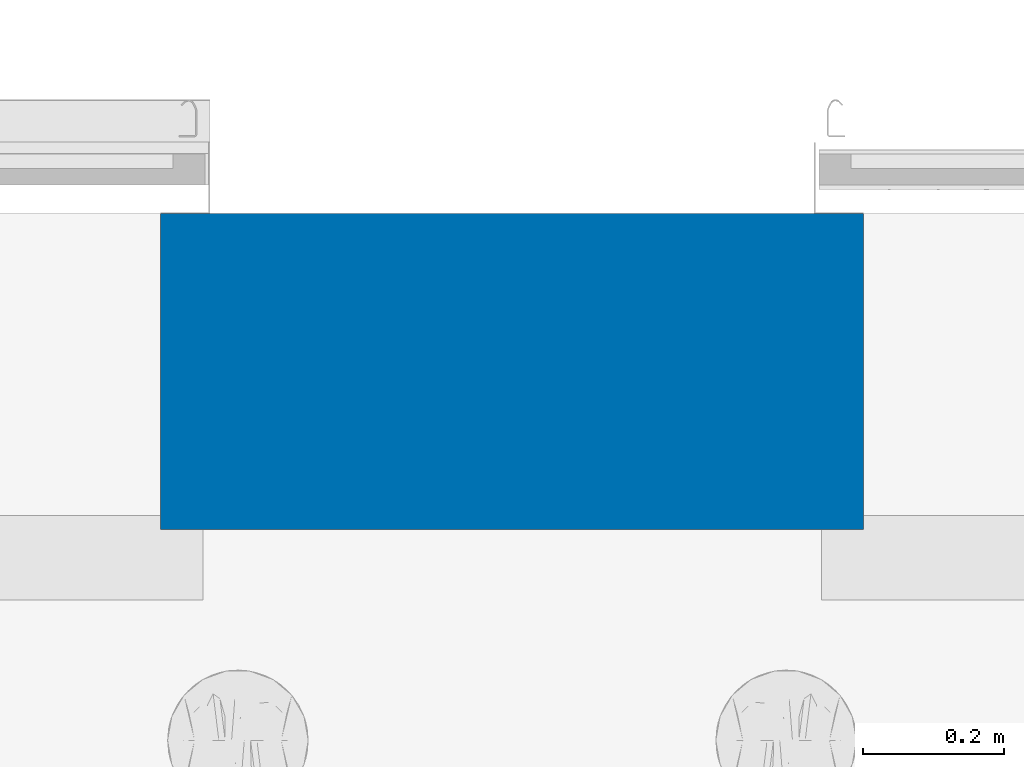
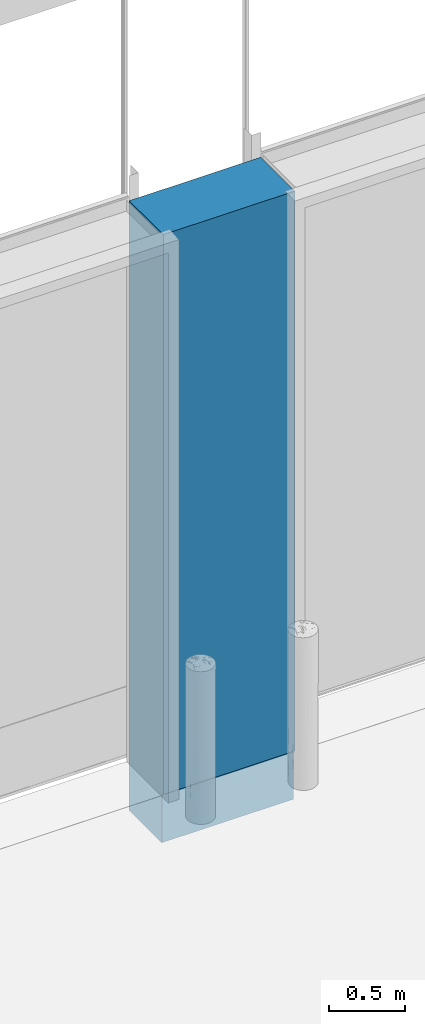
# One storey, part 53 of 77: 1 wall, 1 opening.
"""IFC2X3 building model written with IfcOpenShell, lengths in millimetres."""

import ifcopenshell
import ifcopenshell.guid

model = None  # the IFC model being written
_history = None  # IfcOwnerHistory: only IFC2X3 demands one
_inside = {}  # id of a spatial element -> (the spatial element, [elements in it])
_under = {}  # id of a project, library or spatial element -> (it, [spatial elements below it])
_declared = {}  # id of a project -> (the project, [libraries it declares])
_typed = {}  # id of a type object -> (the type object, [elements of that type])
_made_of = {}  # id of a material, layer set ... -> (it, [elements and type objects made of it])


def new_model(schema):
    """Start an empty IFC model of exactly this schema.

    Asked for "IFC4X3", IfcOpenShell would pick the latest addendum, in which some entities
    have other attributes; the version numbers below select the first issue.
    IFC2X3 requires an IfcOwnerHistory on every rooted entity: one is made here for all.
    """
    global model, _history
    if schema == "IFC4X3":
        model = ifcopenshell.file(schema_version=(4, 3, 0, 0))
    else:
        model = ifcopenshell.file(schema=schema)
    _inside.clear()
    _under.clear()
    _declared.clear()
    _typed.clear()
    _made_of.clear()
    _history = None
    if model.schema == "IFC2X3":
        org = make("IfcOrganization", Name="unknown")
        user = make(
            "IfcPersonAndOrganization",
            ThePerson=make("IfcPerson", FamilyName="unknown"),
            TheOrganization=org,
        )
        app = make(
            "IfcApplication",
            ApplicationDeveloper=org,
            Version="unknown",
            ApplicationFullName="unknown",
            ApplicationIdentifier="unknown",
        )
        _history = make(
            "IfcOwnerHistory",
            OwningUser=user,
            OwningApplication=app,
            ChangeAction="ADDED",
            CreationDate=0,
        )
    return model


def make(cls, **values):
    """One entity of the class cls with the attributes given. An attribute that is None is left unset."""
    return model.create_entity(
        cls, **{name: value for name, value in values.items() if value is not None}
    )


def entity(cls, *values):
    """Any entity or typed value of the class cls, its attributes in the order of the schema. None: left unset."""
    e = model.create_entity(cls)
    for i, value in enumerate(values):
        if value is not None:
            e[i] = value
    return e


def rooted(cls, **values):
    """An entity with a GlobalId (a new one), such as an element, a storey or a relation."""
    return make(cls, GlobalId=ifcopenshell.guid.new(), OwnerHistory=_history, **values)


def si_unit(unit_type, name, prefix=None):
    """IfcSIUnit, for example si_unit("LENGTHUNIT", "METRE", prefix="MILLI")."""
    return make("IfcSIUnit", UnitType=unit_type, Prefix=prefix, Name=name)


def converted_unit(unit_type, name, factor, base, dimensions=None, offset=None):
    """IfcConversionBasedUnit, such as the inch: factor (a typed value) times the base unit."""
    return make(
        "IfcConversionBasedUnit"
        if offset is None
        else "IfcConversionBasedUnitWithOffset",
        ConversionOffset=offset,
        Dimensions=None
        if dimensions is None
        else entity("IfcDimensionalExponents", *dimensions),
        UnitType=unit_type,
        Name=name,
        ConversionFactor=make(
            "IfcMeasureWithUnit", ValueComponent=factor, UnitComponent=base
        ),
    )


def derived_unit(unit_type, elements):
    """IfcDerivedUnit: a product of units, each with its exponent."""
    return make(
        "IfcDerivedUnit",
        Elements=[
            make("IfcDerivedUnitElement", Unit=unit, Exponent=power)
            for unit, power in elements
        ],
        UnitType=unit_type,
    )


def assignment(units):
    """IfcUnitAssignment: the units of a project."""
    return None if units is None else make("IfcUnitAssignment", Units=units)


def point(xyz):
    """IfcCartesianPoint."""
    return None if xyz is None else make("IfcCartesianPoint", Coordinates=xyz)


def direction(xyz):
    """IfcDirection."""
    return None if xyz is None else make("IfcDirection", DirectionRatios=xyz)


def frame(location, z_axis=None, x_axis=None):
    """IfcAxis2Placement3D, a coordinate frame: its origin and axes. An axis left out is left unset."""
    return make(
        "IfcAxis2Placement3D",
        Location=point(location),
        Axis=direction(z_axis),
        RefDirection=direction(x_axis),
    )


def frame_2d(location, x_axis=None):
    """IfcAxis2Placement2D, a coordinate frame in the plane: its origin and x axis."""
    return make(
        "IfcAxis2Placement2D", Location=point(location), RefDirection=direction(x_axis)
    )


def origin():
    """The frame at (0, 0, 0) with its axes left unset."""
    return frame((0.0, 0.0, 0.0))


def place(relative_to, where):
    """IfcLocalPlacement: puts the frame where relative to a parent placement (None: the world)."""
    return make(
        "IfcLocalPlacement", PlacementRelTo=relative_to, RelativePlacement=where
    )


def context(
    kind, dimensions, precision=None, world=None, true_north=None, identifier=None
):
    """IfcGeometricRepresentationContext, for example the 3D "Model" context."""
    return make(
        "IfcGeometricRepresentationContext",
        ContextIdentifier=identifier,
        ContextType=kind,
        CoordinateSpaceDimension=dimensions,
        Precision=precision,
        WorldCoordinateSystem=world,
        TrueNorth=true_north,
    )


def subcontext(parent, identifier, kind, view, scale=None):
    """IfcGeometricRepresentationSubContext, for example "Body" below "Model"."""
    return make(
        "IfcGeometricRepresentationSubContext",
        ContextIdentifier=identifier,
        ContextType=kind,
        ParentContext=parent,
        TargetScale=scale,
        TargetView=view,
    )


def project(units=None, contexts=None):
    """IfcProject with its units and contexts."""
    return rooted(
        "IfcProject",
        Name="project",
        RepresentationContexts=contexts,
        UnitsInContext=assignment(units),
    )


def spatial(cls, under=None, at=None, **own):
    """A site, building, storey or space (cls), placed at a placement, below another one or the project."""
    s = rooted(cls, ObjectPlacement=at, **own)
    if under is not None:
        _under.setdefault(under.id(), (under, []))[1].append(s)
    return s


def profile(cls, at=None, kind="AREA", **sizes):
    """A parametric profile (cls). Its sizes go by their IFC names, for example OverallWidth=200.0."""
    return make(cls, ProfileType=kind, Position=at, **sizes)


def rectangle(**sizes):
    """IfcRectangleProfileDef."""
    return profile("IfcRectangleProfileDef", **sizes)


def extrude(swept, where, along, depth):
    """IfcExtrudedAreaSolid: the profile swept, set in the frame where, extruded along a direction by depth."""
    return make(
        "IfcExtrudedAreaSolid",
        SweptArea=swept,
        Position=where,
        ExtrudedDirection=direction(along),
        Depth=depth,
    )


def faces_of(points, faces, orient=None, outer=None):
    """IfcFace entities. A face is a list of loops; a loop is a list of indices into points, from 0.

    orient and outer hold one flag for each loop. By default every Orientation is true, the
    first loop of a face is its IfcFaceOuterBound and the others are IfcFaceBound.
    """
    made = []
    for i, loops in enumerate(faces):
        bounds = []
        for j, loop in enumerate(loops):
            is_outer = j == 0 if outer is None else outer[i][j]
            bounds.append(
                make(
                    "IfcFaceOuterBound" if is_outer else "IfcFaceBound",
                    Bound=make("IfcPolyLoop", Polygon=[points[k] for k in loop]),
                    Orientation=True if orient is None else orient[i][j],
                )
            )
        made.append(make("IfcFace", Bounds=bounds))
    return made


def faceted_brep(points, faces, orient=None, outer=None, voids=None):
    """IfcFacetedBrep: a solid bounded by flat faces; with voids (closed shells), ...WithVoids."""
    shared = [point(p) for p in points]
    hull = make("IfcClosedShell", CfsFaces=faces_of(shared, faces, orient, outer))
    if voids is None:
        return make("IfcFacetedBrep", Outer=hull)
    return make(
        "IfcFacetedBrepWithVoids",
        Outer=hull,
        Voids=[
            make(cls, CfsFaces=faces_of(shared, fs, o, b)) for cls, fs, o, b in voids
        ],
    )


def shape(context_of_items, identifier, shape_type, items):
    """IfcShapeRepresentation: the items that make up one representation, for example the "Body"."""
    return make(
        "IfcShapeRepresentation",
        ContextOfItems=context_of_items,
        RepresentationIdentifier=identifier,
        RepresentationType=shape_type,
        Items=items,
    )


def material(Name=None, Category=None):
    """IfcMaterial."""
    return make("IfcMaterial", Name=Name, Category=Category)


def layer(
    of_material, thickness, ventilated=None, Name=None, Category=None, Priority=None
):
    """IfcMaterialLayer: one layer of a wall or slab, of a material (None: an air gap)."""
    return make(
        "IfcMaterialLayer",
        Material=of_material,
        LayerThickness=thickness,
        IsVentilated=ventilated,
        Name=Name,
        Category=Category,
        Priority=Priority,
    )


def layer_set(layers, Name=None):
    """IfcMaterialLayerSet."""
    return make("IfcMaterialLayerSet", MaterialLayers=layers, LayerSetName=Name)


def made_of(thing, what):
    """Note that an element or type object is made of a material, layer set ...; save() writes the relation."""
    if what is not None:
        _made_of.setdefault(what.id(), (what, []))[1].append(thing)
    return thing


def type_object(cls, material=None, **own):
    """A type object (cls), such as IfcWallType, which elements share."""
    return made_of(rooted(cls, **own), material)


def element(
    cls,
    number,
    at=None,
    inside=None,
    cuts=None,
    type_object=None,
    material=None,
    context=None,
    identifier="Body",
    shape_type=None,
    held_by="IfcProductDefinitionShape",
    body=None,
    shapes=None,
    **own,
):
    """One element of the class cls, such as IfcWall. Its Tag is "e" and its number.

    at: its placement. inside: the storey or other place that contains it. cuts: it is an
    opening in that element (IfcRelVoidsElement). A single representation is given by context,
    identifier, shape_type and body (its items); several are given by shapes. held_by: the class
    of the entity that holds the representations. save() writes the other relations.
    """
    e = rooted(cls, Tag="e%d" % number, ObjectPlacement=at, **own)
    if body is not None:
        shapes = [shape(context, identifier, shape_type, body)]
    if shapes is not None:
        e.Representation = make(held_by, Representations=shapes)
    if inside is not None:
        _inside.setdefault(inside.id(), (inside, []))[1].append(e)
    if cuts is not None:
        rooted(
            "IfcRelVoidsElement", RelatingBuildingElement=cuts, RelatedOpeningElement=e
        )
    if type_object is not None:
        _typed.setdefault(type_object.id(), (type_object, []))[1].append(e)
    return made_of(e, material)


def aggregate(whole, parts):
    """IfcRelAggregates: a whole, such as a stair, and the parts it consists of."""
    return rooted("IfcRelAggregates", RelatingObject=whole, RelatedObjects=parts)


def save(model, path):
    """Write the relations noted so far, then the file.

    IfcRelAggregates (storeys below a building ...), IfcRelContainedInSpatialStructure (elements
    in a storey), IfcRelDefinesByType, IfcRelAssociatesMaterial and IfcRelDeclares: one each for
    every whole, place, type object, material and project.
    """
    for whole, parts in _under.values():
        aggregate(whole, parts)
    for where, things in _inside.values():
        rooted(
            "IfcRelContainedInSpatialStructure",
            RelatedElements=things,
            RelatingStructure=where,
        )
    for kind, things in _typed.values():
        rooted("IfcRelDefinesByType", RelatedObjects=things, RelatingType=kind)
    for what, things in _made_of.values():
        rooted("IfcRelAssociatesMaterial", RelatedObjects=things, RelatingMaterial=what)
    for by, libraries in _declared.values():
        rooted("IfcRelDeclares", RelatingContext=by, RelatedDefinitions=libraries)
    model.write(path)


model = new_model("IFC2X3")

# Units and contexts
model_context = context("Model", 3, precision=0.01, world=origin(), true_north=direction((6.12303176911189e-17, 1.0)))
body_context = subcontext(model_context, "Body", "Model", "MODEL_VIEW")
ifc_project = project(units=[si_unit("LENGTHUNIT", "METRE", prefix="MILLI"), si_unit("AREAUNIT", "SQUARE_METRE"), si_unit("VOLUMEUNIT", "CUBIC_METRE"), converted_unit("PLANEANGLEUNIT", "DEGREE", entity("IfcRatioMeasure", 0.0174532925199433), si_unit("PLANEANGLEUNIT", "RADIAN"), dimensions=[0, 0, 0, 0, 0, 0, 0]), si_unit("MASSUNIT", "GRAM", prefix="KILO"), derived_unit("MASSDENSITYUNIT", [(si_unit("MASSUNIT", "GRAM", prefix="KILO"), 1), (si_unit("LENGTHUNIT", "METRE"), -3)]), si_unit("TIMEUNIT", "SECOND"), si_unit("FREQUENCYUNIT", "HERTZ"), si_unit("THERMODYNAMICTEMPERATUREUNIT", "DEGREE_CELSIUS"), derived_unit("THERMALTRANSMITTANCEUNIT", [(si_unit("MASSUNIT", "GRAM", prefix="KILO"), 1), (si_unit("THERMODYNAMICTEMPERATUREUNIT", "KELVIN"), -1), (si_unit("TIMEUNIT", "SECOND"), -3)]), derived_unit("VOLUMETRICFLOWRATEUNIT", [(si_unit("LENGTHUNIT", "METRE"), 3), (si_unit("TIMEUNIT", "SECOND"), -1)]), si_unit("ELECTRICCURRENTUNIT", "AMPERE"), si_unit("ELECTRICVOLTAGEUNIT", "VOLT"), si_unit("POWERUNIT", "WATT"), si_unit("FORCEUNIT", "NEWTON", prefix="KILO"), si_unit("ILLUMINANCEUNIT", "LUX"), si_unit("LUMINOUSFLUXUNIT", "LUMEN"), si_unit("LUMINOUSINTENSITYUNIT", "CANDELA"), derived_unit("USERDEFINED", [(si_unit("MASSUNIT", "GRAM", prefix="KILO"), -1), (si_unit("LENGTHUNIT", "METRE"), -2), (si_unit("TIMEUNIT", "SECOND"), 3), (si_unit("LUMINOUSFLUXUNIT", "LUMEN"), 1)]), derived_unit("LINEARVELOCITYUNIT", [(si_unit("LENGTHUNIT", "METRE"), 1), (si_unit("TIMEUNIT", "SECOND"), -1)]), si_unit("PRESSUREUNIT", "PASCAL"), derived_unit("USERDEFINED", [(si_unit("LENGTHUNIT", "METRE"), -2), (si_unit("MASSUNIT", "GRAM", prefix="KILO"), 1), (si_unit("TIMEUNIT", "SECOND"), -2)])], contexts=[model_context])

# Site, building, storey
site_placement = place(None, origin())
site = spatial("IfcSite", under=ifc_project, at=site_placement, Name="Default", CompositionType="ELEMENT")
building_placement = place(site_placement, origin())
building = spatial("IfcBuilding", under=site, at=building_placement, CompositionType="ELEMENT")
storey_placement = place(building_placement, origin())
storey = spatial("IfcBuildingStorey", under=building, at=storey_placement, Name="1. KORRUS", CompositionType="ELEMENT", Elevation=0.0)

# Wall, opening
ifc_material_1 = material(Name="RECKLI 1 173 THUR by Polantis 2016-tume")
ifc_layer_1 = layer(ifc_material_1, 100.0)
ifc_material_2 = material(Name="Soojusisolatsioon EPS")
ifc_layer_2 = layer(ifc_material_2, 200.0)
ifc_material_3 = material(Name="r/b")
ifc_layer_3 = layer(ifc_material_3, 150.0)
ifc_layer_set = layer_set([ifc_layer_1, ifc_layer_2, ifc_layer_3], Name="Basic Wall:VS-1-tume")
wall_type = type_object("IfcWallType", Name="Basic Wall:VS-1-tume", PredefinedType="NOTDEFINED", material=ifc_layer_set)
wall_placement = place(storey_placement, frame((16000.0, -225.0, -400.0), z_axis=(0.0, 0.0, 1.0), x_axis=(-1.0, 0.0, 0.0)))
wall = element("IfcWall", 1, at=wall_placement, inside=storey, type_object=wall_type, Name="Basic Wall:VS-1-tume", ObjectType="Basic Wall:VS-1-tume", context=body_context, shape_type="Brep", body=[
    faceted_brep([(0.0, -225.0, 0.0), (1000.0, -225.0, 0.0), (1000.0, -225.0, 4900.0), (0.0, -225.0, 4900.0), (0.0, 225.0, 4900.0), (1000.0, 225.0, 4900.0), (1000.0, 225.0, 400.0), (0.0, 225.0, 400.0), (0.0, 205.0, 0.0), (1000.0, 205.0, 0.0), (0.0, 125.0, 4900.0), (0.0, 205.0, 400.0), (1000.0, 125.0, 4900.0), (1000.0, 205.0, 400.0)], [[[0, 1, 2, 3]], [[4, 5, 6, 7]], [[1, 0, 8, 9]], [[3, 10, 4, 7, 11, 8, 0]], [[2, 12, 10, 3]], [[12, 5, 4, 10]], [[13, 11, 7, 6]], [[11, 13, 9, 8]], [[12, 2, 1, 9, 13, 6, 5]]]),
])
opening_placement = place(wall_placement, frame((0.0, 225.0, 400.0)))
element("IfcOpeningElement", 2, at=opening_placement, cuts=wall, Name="Crawford OH1042F-Without Passdoor:GU02:1", ObjectType="Opening", context=body_context, shape_type="SweptSolid", body=[
    extrude(rectangle(XDim=4499.99999999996, YDim=3600.0, at=frame_2d((2249.99999999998, 1800.0), x_axis=(1.0, 0.0))), frame((0.0, 0.0, 0.0), z_axis=(0.0, -1.0, 0.0), x_axis=(0.0, 0.0, 1.0)), (0.0, 0.0, 1.0), 450.0),
])

save(model, "model.ifc")
